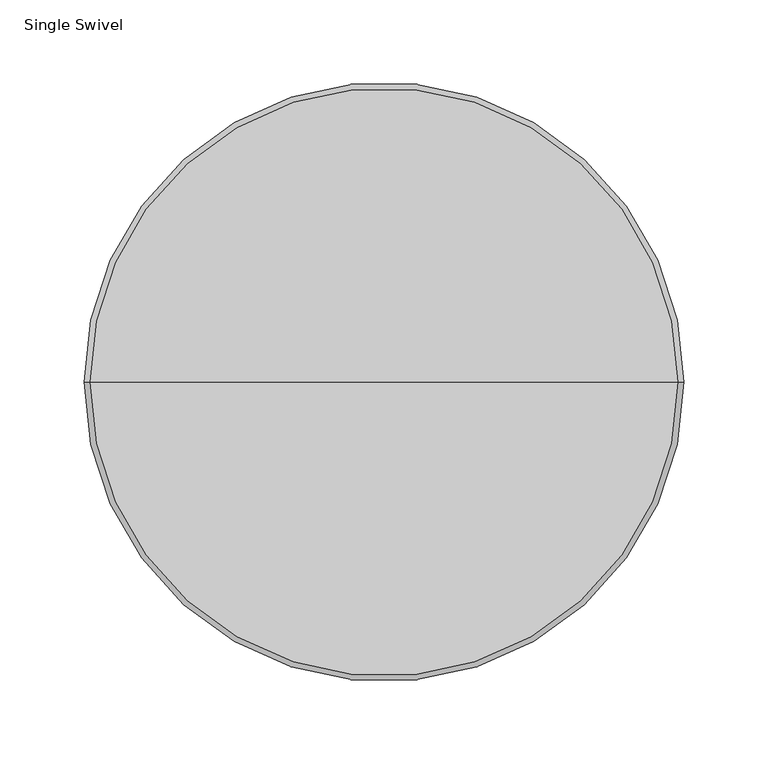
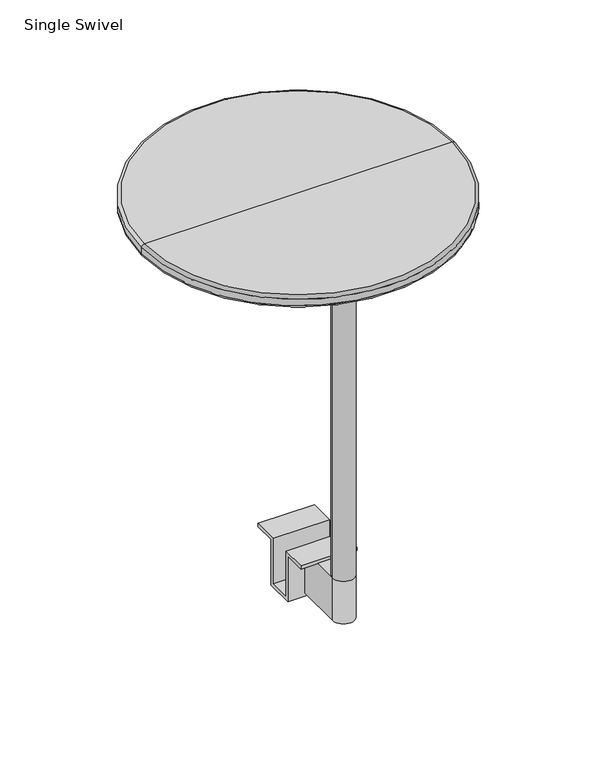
"""IFC4 building model written with IfcOpenShell, lengths in millimetres: furniture geometry, Stylex - Ambi - Tablet Arm : Single Swivel."""

from ifc_helpers import new_model, si_unit, point, frame, origin, place, context, project, spatial, polyline, circle_curve, ellipse_curve, trimmed, outline, extrude, source, transform, mapped, element, save
from ifc_brep_helpers import plane_surface, cylinder_surface, revolved_surface, advanced_brep


def single_swivel_5870ec6f(model_context):
    return source(origin(), model_context, "Body", "SolidModel", [
        advanced_brep(
        [(-12.3875865, -81.5608619, 630.3673855), (12.3875865, -81.5608619, 630.3673855), (-12.3875865, -81.5608619, 253.9887483), (12.3875865, -81.5608619, 253.9887483), (12.3875865, -27.7622, 253.9887483), (-12.3875865, -27.7622, 253.9887483), (12.3875865, -27.7622, 203.2), (12.3875865, -81.5608619, 203.2), (-12.3875865, -81.5608619, 203.2), (-12.3875865, -27.7622, 203.2)],
        [
            (0, 1, circle_curve(frame((0.0, -81.5608619, 630.3673855), z_axis=(0.0, 0.0, 1.0), x_axis=(1.0, 0.0, 0.0)), 12.3875865)),
            (1, 0, circle_curve(frame((0.0, -81.5608619, 630.3673855), z_axis=(0.0, 0.0, 1.0), x_axis=(1.0, 0.0, 0.0)), 12.3875865)),
            (0, 2),
            (2, 3, circle_curve(frame((0.0, -81.5608619, 253.9887483), z_axis=(0.0, 0.0, 1.0), x_axis=(1.0, 0.0, 0.0)), 12.3875865)),
            (3, 1),
            (3, 2, circle_curve(frame((0.0, -81.5608619, 253.9887483), z_axis=(0.0, 0.0, 1.0), x_axis=(1.0, 0.0, 0.0)), 12.3875865)),
            (4, 5),
            (5, 2),
            (3, 4),
            (6, 7),
            (7, 8, circle_curve(frame((0.0, -81.5608619, 203.2), z_axis=(0.0, 0.0, -1.0), x_axis=(1.0, 0.0, 0.0)), 12.3875865)),
            (8, 9),
            (9, 6),
            (4, 6),
            (9, 5),
            (7, 3),
            (2, 8),
        ],
        [
            plane_surface(frame((12.3875865, -81.5608619, 630.3673855), z_axis=(0.0, 0.0, 1.0), x_axis=(0.0, 1.0, 0.0))),
            cylinder_surface(frame((0.0, -81.5608619, 253.9887483), z_axis=(0.0, 0.0, 1.0), x_axis=(1.0, 0.0, 0.0)), 12.3875865),
            plane_surface(frame((12.3875865, -81.5608619, 253.9887483), z_axis=(0.0, 0.0, 1.0), x_axis=(0.0, 1.0, 0.0))),
            plane_surface(frame((12.3875865, -81.5608619, 203.2), z_axis=(0.0, 0.0, -1.0), x_axis=(0.0, -1.0, 0.0))),
            plane_surface(frame((-12.3875865, -27.7622, 203.2), z_axis=(0.0, 1.0, 0.0), x_axis=(0.0, 0.0, 1.0))),
            cylinder_surface(frame((0.0, -81.5608619, 253.9887483), z_axis=(0.0, 0.0, -1.0), x_axis=(1.0, 0.0, 0.0)), 12.3875865),
            plane_surface(frame((12.3875865, -27.7622, 203.2), z_axis=(1.0, 0.0, 0.0), x_axis=(0.0, 0.0, 1.0))),
            plane_surface(frame((-12.3875865, -81.5608619, 203.2), z_axis=(-1.0, 0.0, 0.0), x_axis=(0.0, 0.0, 1.0))),
        ],
        [
            (0, [[1, 2]]),
            (1, [[-1, 3, 4, 5]]),
            (1, [[-2, -5, 6, -3]]),
            (2, [[7, 8, -6, 9]]),
            (3, [[10, 11, 12, 13]]),
            (4, [[-7, 14, -13, 15]]),
            (5, [[-11, 16, -4, 17]]),
            (6, [[-9, -16, -10, -14]]),
            (7, [[-8, -15, -12, -17]]),
        ],
    ),
        advanced_brep(
        [(-115.8427307, 7.3391381, 630.3673855), (115.8427307, 7.3391381, 630.3673855), (0.0, 7.3391381, 630.3673855), (-174.9763811, 7.3391381, 641.8934625), (174.9763811, 7.3391381, 641.8934625), (-177.5439549, 7.3391381, 645.0098159), (177.5439549, 7.3391381, 645.0098159), (-177.5439549, 7.3391381, 652.5923855), (177.5439549, 7.3391381, 652.5923855), (-174.3689549, 7.3391381, 655.7673855), (174.3689549, 7.3391381, 655.7673855), (0.0, 7.3391381, 655.7673855)],
        [
            (0, 1, circle_curve(frame((0.0, 7.3391381, 630.3673855), z_axis=(0.0, 0.0, -1.0), x_axis=(1.0, 0.0, 0.0)), 115.8427307)),
            (1, 2),
            (2, 0),
            (1, 0, circle_curve(frame((0.0, 7.3391381, 630.3673855), z_axis=(0.0, 0.0, -1.0), x_axis=(1.0, 0.0, 0.0)), 115.8427307)),
            (3, 4, circle_curve(frame((0.0, 7.3391381, 641.8934625), z_axis=(0.0, 0.0, -1.0), x_axis=(1.0, 0.0, 0.0)), 174.9763811)),
            (4, 1),
            (0, 3),
            (4, 3, circle_curve(frame((0.0, 7.3391381, 641.8934625), z_axis=(0.0, 0.0, -1.0), x_axis=(1.0, 0.0, 0.0)), 174.9763811)),
            (5, 6, circle_curve(frame((0.0, 7.3391381, 645.0098159), z_axis=(0.0, 0.0, -1.0), x_axis=(1.0, 0.0, 0.0)), 177.5439549)),
            (6, 4, circle_curve(frame((174.3689549, 7.3391381, 645.0098159), z_axis=(0.0, 1.0, 0.0), x_axis=(1.0, 0.0, 0.0)), 3.175)),
            (3, 5, circle_curve(frame((-174.3689549, 7.3391381, 645.0098159), z_axis=(0.0, 1.0, 0.0), x_axis=(-1.0, 0.0, 0.0)), 3.175)),
            (6, 5, circle_curve(frame((0.0, 7.3391381, 645.0098159), z_axis=(0.0, 0.0, -1.0), x_axis=(1.0, 0.0, 0.0)), 177.5439549)),
            (7, 8, circle_curve(frame((0.0, 7.3391381, 652.5923855), z_axis=(0.0, 0.0, -1.0), x_axis=(1.0, 0.0, 0.0)), 177.5439549)),
            (8, 6),
            (5, 7),
            (8, 7, circle_curve(frame((0.0, 7.3391381, 652.5923855), z_axis=(0.0, 0.0, -1.0), x_axis=(1.0, 0.0, 0.0)), 177.5439549)),
            (9, 10, circle_curve(frame((0.0, 7.3391381, 655.7673855), z_axis=(0.0, 0.0, -1.0), x_axis=(1.0, 0.0, 0.0)), 174.3689549)),
            (10, 8, circle_curve(frame((174.3689549, 7.3391381, 652.5923855), z_axis=(0.0, 1.0, 0.0), x_axis=(1.0, 0.0, 0.0)), 3.175)),
            (7, 9, circle_curve(frame((-174.3689549, 7.3391381, 652.5923855), z_axis=(0.0, 1.0, 0.0), x_axis=(-1.0, 0.0, 0.0)), 3.175)),
            (10, 9, circle_curve(frame((0.0, 7.3391381, 655.7673855), z_axis=(0.0, 0.0, -1.0), x_axis=(1.0, 0.0, 0.0)), 174.3689549)),
            (11, 10),
            (9, 11),
        ],
        [
            plane_surface(frame((0.0, 7.3391381, 630.3673855), z_axis=(0.0, 0.0, -1.0), x_axis=(1.0, 0.0, 0.0))),
            revolved_surface(polyline([(115.8427307, 7.3391381, 630.3673855), (174.9763811, 7.3391381, 641.8934625)]), (0.0, 7.3391381, 630.3673855), (0.0, 0.0, 1.0)),
            revolved_surface(trimmed(ellipse_curve(frame((174.3689549, 7.3391381, 645.0098159), z_axis=(0.0, -1.0, 0.0), x_axis=(1.0, 0.0, 0.0)), 3.175, 3.175), [point((174.9763811, 7.3391381, 641.8934625))], [point((177.5439549, 7.3391381, 645.0098159))], True, "CARTESIAN"), (0.0, 7.3391381, 630.3673855), (0.0, 0.0, 1.0)),
            cylinder_surface(frame((0.0, 7.3391381, 630.3673855), z_axis=(0.0, 0.0, 1.0), x_axis=(1.0, 0.0, 0.0)), 177.5439549),
            revolved_surface(trimmed(ellipse_curve(frame((174.3689549, 7.3391381, 652.5923855), z_axis=(0.0, -1.0, 0.0), x_axis=(1.0, 0.0, 0.0)), 3.175, 3.175), [point((177.5439549, 7.3391381, 652.5923855))], [point((174.3689549, 7.3391381, 655.7673855))], True, "CARTESIAN"), (0.0, 7.3391381, 630.3673855), (0.0, 0.0, 1.0)),
            plane_surface(frame((0.0, 7.3391381, 655.7673855), z_axis=(0.0, 0.0, 1.0), x_axis=(1.0, 0.0, 0.0))),
        ],
        [
            (0, [[1, 2, 3]]),
            (0, [[4, -3, -2]]),
            (1, [[5, 6, -1, 7]]),
            (1, [[8, -7, -4, -6]]),
            (2, [[9, 10, -5, 11]]),
            (2, [[12, -11, -8, -10]]),
            (3, [[13, 14, -9, 15]]),
            (3, [[16, -15, -12, -14]]),
            (4, [[17, 18, -13, 19]]),
            (4, [[20, -19, -16, -18]]),
            (5, [[21, -17, 22]]),
            (5, [[-22, -20, -21]]),
        ],
    ),
        extrude(outline(polyline([(-27.7622, 199.39), (-27.7622, 254.0084837), (-53.1622, 254.0084837), (-53.1622, 257.8184837), (-23.9522, 257.8184837), (-23.9522, 203.2), (1.4478, 203.2), (1.4478, 257.8184837), (30.6578, 257.8184837), (30.6578, 254.0084837), (5.2578, 254.0084837), (5.2578, 199.39), (-27.7622, 199.39)])), frame((-31.75, 0.0, 0.0), z_axis=(1.0, 0.0, 0.0), x_axis=(0.0, 1.0, 0.0)), (0.0, 0.0, 1.0), 63.5),
    ])


if __name__ == "__main__":
    model = new_model("IFC4")
    model_context = context("Model", 3, world=origin())
    ifc_project = project(units=[si_unit("LENGTHUNIT", "METRE", prefix="MILLI")], contexts=[model_context])
    site = spatial("IfcSite", under=ifc_project)
    building = spatial("IfcBuilding", under=site)
    placement = place(None, origin())
    single_swivel_shape = single_swivel_5870ec6f(model_context)
    element("IfcFurniture", 1, ObjectType="Stylex - Ambi - Tablet Arm : Single Swivel", at=placement, inside=building, context=model_context, shape_type="MappedRepresentation", body=[
        mapped(single_swivel_shape, transform((0.0, 0.0, 0.0), x_axis=(1.0, 0.0, 0.0), y_axis=(0.0, 1.0, 0.0), z_axis=(0.0, 0.0, 1.0))),
    ])
    save(model, "model.ifc")
